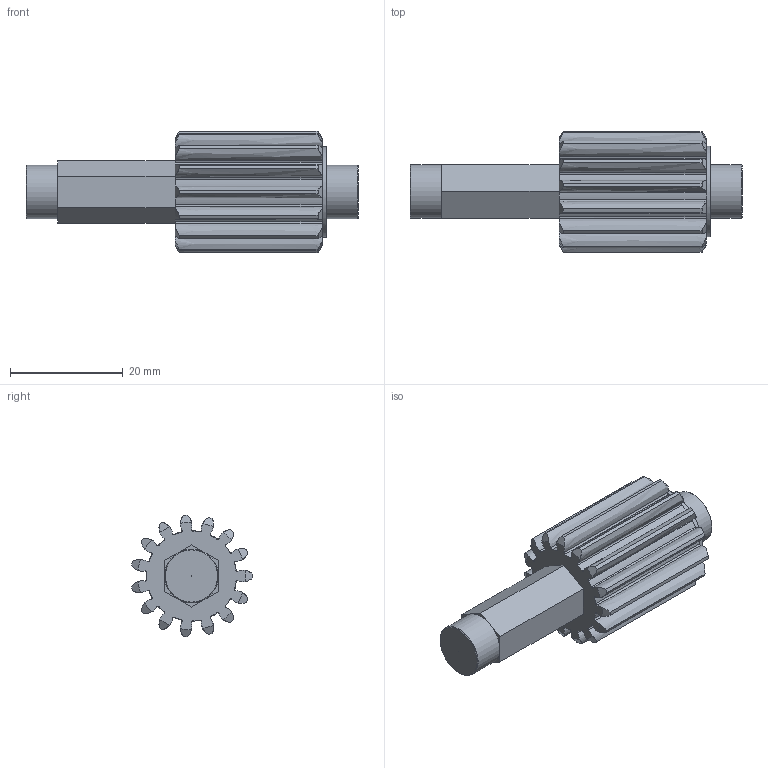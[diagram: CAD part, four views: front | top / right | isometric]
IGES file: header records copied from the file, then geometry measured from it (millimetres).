
Global section: file name: No Iges File Name specified; native system: AutoDesk Inventor R6.0; preprocessor: AutoDesk Inventor Iges Exporter R6.0; author: No Author specified; organization: No Organization specified; date: 20080103.182719; units: inch
Bounding box: 58.8 x 21.42 x 21.53 mm (x, y, z)
Surface area: 4841.6 mm2 (no closed solid volume)
Topology: 0 solids, 0 shells, 167 faces, 902 edges, 896 vertices
Faces by surface type: revolution 126, plane 41
